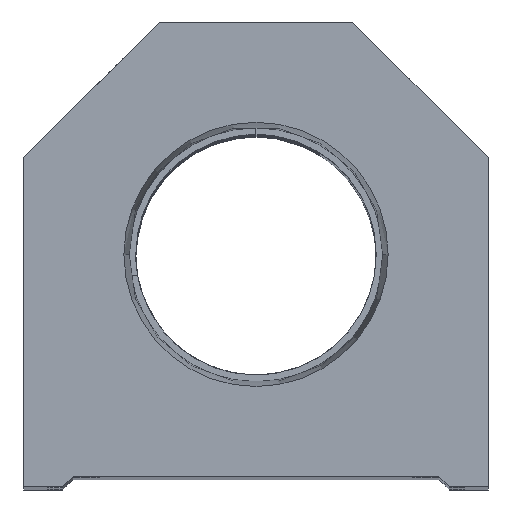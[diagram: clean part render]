
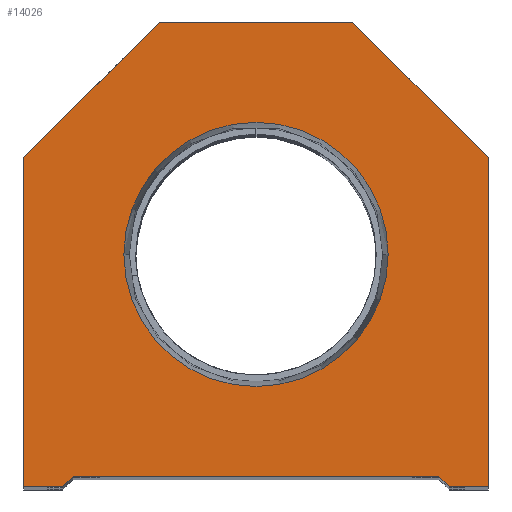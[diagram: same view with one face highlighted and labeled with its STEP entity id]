
A CAD part, top view. The second image highlights one B-rep face of the part: STEP entity #14026.
In plain terms, the highlighted planar face has unit normal (0, 0, 1).
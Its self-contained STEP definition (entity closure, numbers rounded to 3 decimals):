
#128 = VECTOR ( 'NONE', #10041, 1000. ) ;
#153 = AXIS2_PLACEMENT_3D ( 'NONE', #16694, #9068, #7265 ) ;
#513 = EDGE_CURVE ( 'NONE', #16845, #1452, #2165, .T. ) ;
#548 = CARTESIAN_POINT ( 'NONE',  ( 9.25, 44.5, 0. ) ) ;
#597 = AXIS2_PLACEMENT_3D ( 'NONE', #2341, #17583, #3845 ) ;
#803 = VERTEX_POINT ( 'NONE', #12304 ) ;
#1139 = EDGE_CURVE ( 'NONE', #1452, #803, #10588, .T. ) ;
#1452 = VERTEX_POINT ( 'NONE', #10463 ) ;
#1609 = CARTESIAN_POINT ( 'NONE',  ( -17.5, 1., 0. ) ) ;
#1690 = EDGE_LOOP ( 'NONE', ( #10546, #18480 ) ) ;
#2165 = LINE ( 'NONE', #7050, #7927 ) ;
#2228 = VECTOR ( 'NONE', #6272, 1000. ) ;
#2341 = CARTESIAN_POINT ( 'NONE',  ( 0., 0., 0. ) ) ;
#2751 = ORIENTED_EDGE ( 'NONE', *, *, #16340, .T. ) ;
#2823 = LINE ( 'NONE', #8930, #3267 ) ;
#2863 = DIRECTION ( 'NONE',  ( 0.707, 0.707, 0. ) ) ;
#3267 = VECTOR ( 'NONE', #13735, 1000. ) ;
#3299 = CARTESIAN_POINT ( 'NONE',  ( -22.25, 0., 0. ) ) ;
#3754 = FACE_OUTER_BOUND ( 'NONE', #11271, .T. ) ;
#3845 = DIRECTION ( 'NONE',  ( 1., 0., 0. ) ) ;
#4281 = VECTOR ( 'NONE', #15684, 1000. ) ;
#4441 = CARTESIAN_POINT ( 'NONE',  ( -9.25, 9.25, 0. ) ) ;
#4548 = LINE ( 'NONE', #18396, #4281 ) ;
#5012 = VECTOR ( 'NONE', #2863, 1000. ) ;
#5524 = LINE ( 'NONE', #11839, #128 ) ;
#5657 = EDGE_CURVE ( 'NONE', #16304, #19604, #7227, .T. ) ;
#5746 = DIRECTION ( 'NONE',  ( -0.707, 0.707, 0. ) ) ;
#6272 = DIRECTION ( 'NONE',  ( 0., -1., 0. ) ) ;
#6903 = CARTESIAN_POINT ( 'NONE',  ( -17.5, 1., 0. ) ) ;
#7003 = LINE ( 'NONE', #9994, #15404 ) ;
#7050 = CARTESIAN_POINT ( 'NONE',  ( -22.25, 31.5, 0. ) ) ;
#7227 = LINE ( 'NONE', #1609, #12334 ) ;
#7265 = DIRECTION ( 'NONE',  ( 1., 0., 0. ) ) ;
#7268 = ORIENTED_EDGE ( 'NONE', *, *, #513, .T. ) ;
#7927 = VECTOR ( 'NONE', #12962, 1000. ) ;
#8130 = CIRCLE ( 'NONE', #153, 12.647 ) ;
#8160 = CARTESIAN_POINT ( 'NONE',  ( -9.25, 44.5, 0. ) ) ;
#8520 = ORIENTED_EDGE ( 'NONE', *, *, #13816, .T. ) ;
#8930 = CARTESIAN_POINT ( 'NONE',  ( 9.25, 44.5, 0. ) ) ;
#9068 = DIRECTION ( 'NONE',  ( 0., 0., 1. ) ) ;
#9276 = VERTEX_POINT ( 'NONE', #19276 ) ;
#9320 = AXIS2_PLACEMENT_3D ( 'NONE', #13458, #11547, #17782 ) ;
#9763 = CARTESIAN_POINT ( 'NONE',  ( -12.647, 22.25, 0. ) ) ;
#9861 = ORIENTED_EDGE ( 'NONE', *, *, #18717, .T. ) ;
#9994 = CARTESIAN_POINT ( 'NONE',  ( 9.25, 9.25, 0. ) ) ;
#10041 = DIRECTION ( 'NONE',  ( 0., 1., 0. ) ) ;
#10101 = ORIENTED_EDGE ( 'NONE', *, *, #13246, .T. ) ;
#10342 = ORIENTED_EDGE ( 'NONE', *, *, #1139, .T. ) ;
#10452 = EDGE_CURVE ( 'NONE', #16813, #14341, #19510, .T. ) ;
#10463 = CARTESIAN_POINT ( 'NONE',  ( -22.25, 31.5, 0. ) ) ;
#10489 = ORIENTED_EDGE ( 'NONE', *, *, #19724, .T. ) ;
#10516 = VERTEX_POINT ( 'NONE', #9763 ) ;
#10530 = CARTESIAN_POINT ( 'NONE',  ( -18.5, 0., 0. ) ) ;
#10546 = ORIENTED_EDGE ( 'NONE', *, *, #17121, .F. ) ;
#10588 = LINE ( 'NONE', #3299, #2228 ) ;
#11076 = VECTOR ( 'NONE', #13248, 1000. ) ;
#11271 = EDGE_LOOP ( 'NONE', ( #10101, #8520, #15177, #2751, #10489, #9861, #15855, #11324, #7268, #10342 ) ) ;
#11324 = ORIENTED_EDGE ( 'NONE', *, *, #17220, .T. ) ;
#11347 = CARTESIAN_POINT ( 'NONE',  ( 22.25, 31.5, 0. ) ) ;
#11547 = DIRECTION ( 'NONE',  ( 0., 0., 1. ) ) ;
#11632 = VECTOR ( 'NONE', #5746, 1000. ) ;
#11831 = LINE ( 'NONE', #18159, #11076 ) ;
#11839 = CARTESIAN_POINT ( 'NONE',  ( 22.25, 0., 0. ) ) ;
#12304 = CARTESIAN_POINT ( 'NONE',  ( -22.25, 0., 0. ) ) ;
#12334 = VECTOR ( 'NONE', #17956, 1000. ) ;
#12767 = VERTEX_POINT ( 'NONE', #16020 ) ;
#12954 = PLANE ( 'NONE',  #597 ) ;
#12962 = DIRECTION ( 'NONE',  ( -0.707, -0.707, 0. ) ) ;
#13246 = EDGE_CURVE ( 'NONE', #803, #18013, #11831, .T. ) ;
#13248 = DIRECTION ( 'NONE',  ( 1., 0., 0. ) ) ;
#13386 = CARTESIAN_POINT ( 'NONE',  ( 17.5, 1., 0. ) ) ;
#13458 = CARTESIAN_POINT ( 'NONE',  ( 0., 22.25, 0. ) ) ;
#13735 = DIRECTION ( 'NONE',  ( -1., 0., 0. ) ) ;
#13816 = EDGE_CURVE ( 'NONE', #18013, #16304, #18282, .T. ) ;
#14026 = ADVANCED_FACE ( 'NONE', ( #17478, #3754 ), #12954, .T. ) ;
#14341 = VERTEX_POINT ( 'NONE', #548 ) ;
#14775 = CIRCLE ( 'NONE', #9320, 12.647 ) ;
#15177 = ORIENTED_EDGE ( 'NONE', *, *, #5657, .T. ) ;
#15404 = VECTOR ( 'NONE', #18575, 1000. ) ;
#15684 = DIRECTION ( 'NONE',  ( 1., 0., 0. ) ) ;
#15855 = ORIENTED_EDGE ( 'NONE', *, *, #10452, .T. ) ;
#16020 = CARTESIAN_POINT ( 'NONE',  ( 22.25, 0., 0. ) ) ;
#16304 = VERTEX_POINT ( 'NONE', #6903 ) ;
#16340 = EDGE_CURVE ( 'NONE', #19604, #9276, #7003, .T. ) ;
#16694 = CARTESIAN_POINT ( 'NONE',  ( 0., 22.25, 0. ) ) ;
#16813 = VERTEX_POINT ( 'NONE', #11347 ) ;
#16845 = VERTEX_POINT ( 'NONE', #8160 ) ;
#17121 = EDGE_CURVE ( 'NONE', #19516, #10516, #14775, .T. ) ;
#17220 = EDGE_CURVE ( 'NONE', #14341, #16845, #2823, .T. ) ;
#17478 = FACE_BOUND ( 'NONE', #1690, .T. ) ;
#17583 = DIRECTION ( 'NONE',  ( 0., 0., 1. ) ) ;
#17782 = DIRECTION ( 'NONE',  ( 1., 0., 0. ) ) ;
#17897 = CARTESIAN_POINT ( 'NONE',  ( 22.25, 31.5, 0. ) ) ;
#17956 = DIRECTION ( 'NONE',  ( 1., 0., 0. ) ) ;
#18013 = VERTEX_POINT ( 'NONE', #10530 ) ;
#18159 = CARTESIAN_POINT ( 'NONE',  ( -17.5, 0., 0. ) ) ;
#18282 = LINE ( 'NONE', #4441, #5012 ) ;
#18396 = CARTESIAN_POINT ( 'NONE',  ( 17.5, 0., 0. ) ) ;
#18480 = ORIENTED_EDGE ( 'NONE', *, *, #19564, .F. ) ;
#18575 = DIRECTION ( 'NONE',  ( 0.707, -0.707, 0. ) ) ;
#18717 = EDGE_CURVE ( 'NONE', #12767, #16813, #5524, .T. ) ;
#19276 = CARTESIAN_POINT ( 'NONE',  ( 18.5, 0., 0. ) ) ;
#19413 = CARTESIAN_POINT ( 'NONE',  ( 12.647, 22.25, 0. ) ) ;
#19510 = LINE ( 'NONE', #17897, #11632 ) ;
#19516 = VERTEX_POINT ( 'NONE', #19413 ) ;
#19564 = EDGE_CURVE ( 'NONE', #10516, #19516, #8130, .T. ) ;
#19604 = VERTEX_POINT ( 'NONE', #13386 ) ;
#19724 = EDGE_CURVE ( 'NONE', #9276, #12767, #4548, .T. ) ;
